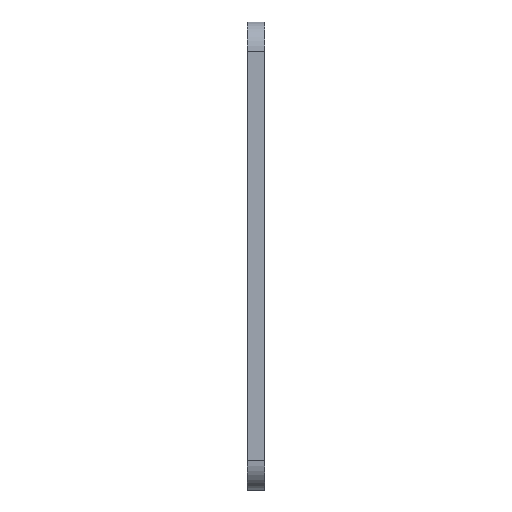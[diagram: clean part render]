
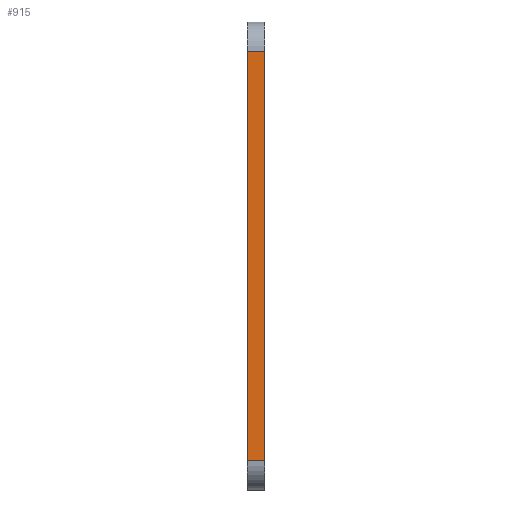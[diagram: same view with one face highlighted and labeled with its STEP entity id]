
A CAD part, left-side view. The second image highlights one B-rep face of the part: STEP entity #915.
In plain terms, the highlighted planar face has unit normal (-1, 0, 0).
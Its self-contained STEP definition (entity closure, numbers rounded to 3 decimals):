
#55 = LINE ( 'NONE', #201, #944 ) ;
#84 = EDGE_LOOP ( 'NONE', ( #4124, #4358, #4062, #3375 ) ) ;
#109 = LINE ( 'NONE', #156, #234 ) ;
#156 = CARTESIAN_POINT ( 'NONE',  ( -275., 6., 140. ) ) ;
#160 = CARTESIAN_POINT ( 'NONE',  ( -275., -6., -140. ) ) ;
#185 = DIRECTION ( 'NONE',  ( 0., 0., 1. ) ) ;
#201 = CARTESIAN_POINT ( 'NONE',  ( -275., -6., -160. ) ) ;
#234 = VECTOR ( 'NONE', #3728, 1000. ) ;
#581 = VECTOR ( 'NONE', #185, 1000. ) ;
#831 = PLANE ( 'NONE',  #1728 ) ;
#915 = ADVANCED_FACE ( 'NONE', ( #4225 ), #831, .F. ) ;
#944 = VECTOR ( 'NONE', #2014, 1000. ) ;
#1099 = VERTEX_POINT ( 'NONE', #3070 ) ;
#1615 = LINE ( 'NONE', #2859, #581 ) ;
#1728 = AXIS2_PLACEMENT_3D ( 'NONE', #2759, #2909, #4426 ) ;
#1875 = VERTEX_POINT ( 'NONE', #160 ) ;
#2012 = VERTEX_POINT ( 'NONE', #2360 ) ;
#2014 = DIRECTION ( 'NONE',  ( 0., 0., 1. ) ) ;
#2198 = EDGE_CURVE ( 'NONE', #1875, #4810, #55, .T. ) ;
#2360 = CARTESIAN_POINT ( 'NONE',  ( -275., 6., -140. ) ) ;
#2673 = CARTESIAN_POINT ( 'NONE',  ( -275., 6., -140. ) ) ;
#2759 = CARTESIAN_POINT ( 'NONE',  ( -275., 6., -160. ) ) ;
#2859 = CARTESIAN_POINT ( 'NONE',  ( -275., 6., -160. ) ) ;
#2909 = DIRECTION ( 'NONE',  ( 1., 0., 0. ) ) ;
#3070 = CARTESIAN_POINT ( 'NONE',  ( -275., 6., 140. ) ) ;
#3308 = VECTOR ( 'NONE', #4425, 1000. ) ;
#3375 = ORIENTED_EDGE ( 'NONE', *, *, #3582, .T. ) ;
#3582 = EDGE_CURVE ( 'NONE', #4810, #1099, #109, .T. ) ;
#3728 = DIRECTION ( 'NONE',  ( 0., 1., 0. ) ) ;
#3925 = EDGE_CURVE ( 'NONE', #2012, #1099, #1615, .T. ) ;
#4062 = ORIENTED_EDGE ( 'NONE', *, *, #2198, .T. ) ;
#4124 = ORIENTED_EDGE ( 'NONE', *, *, #3925, .F. ) ;
#4225 = FACE_OUTER_BOUND ( 'NONE', #84, .T. ) ;
#4227 = LINE ( 'NONE', #2673, #3308 ) ;
#4285 = EDGE_CURVE ( 'NONE', #2012, #1875, #4227, .T. ) ;
#4358 = ORIENTED_EDGE ( 'NONE', *, *, #4285, .T. ) ;
#4425 = DIRECTION ( 'NONE',  ( 0., -1., 0. ) ) ;
#4426 = DIRECTION ( 'NONE',  ( 0., 0., -1. ) ) ;
#4475 = CARTESIAN_POINT ( 'NONE',  ( -275., -6., 140. ) ) ;
#4810 = VERTEX_POINT ( 'NONE', #4475 ) ;
